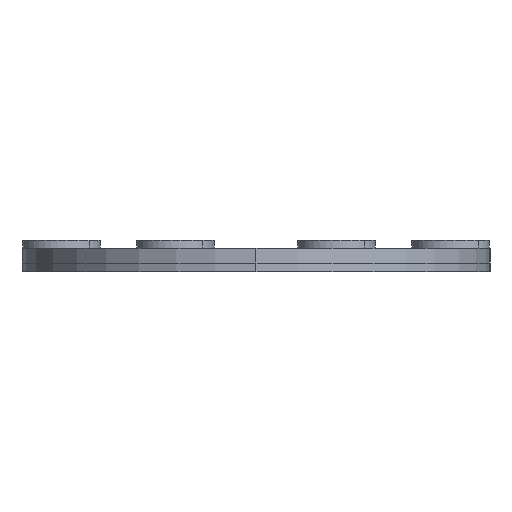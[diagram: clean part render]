
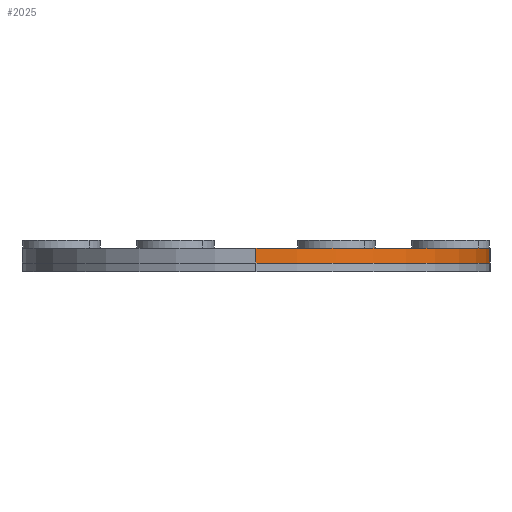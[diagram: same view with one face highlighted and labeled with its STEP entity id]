
A CAD part, left-side view. The second image highlights one B-rep face of the part: STEP entity #2025.
In plain terms, the highlighted cylindrical face has radius 15 mm (diameter 30 mm), a partial arc.
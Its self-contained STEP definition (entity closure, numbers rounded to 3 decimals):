
#233 = PLANE('',#234);
#234 = AXIS2_PLACEMENT_3D('',#235,#236,#237);
#235 = CARTESIAN_POINT('',(-164.75,15.,0.95));
#236 = DIRECTION('',(0.,0.,1.));
#237 = DIRECTION('',(1.,0.,-0.));
#1532 = PLANE('',#1533);
#1533 = AXIS2_PLACEMENT_3D('',#1534,#1535,#1536);
#1534 = CARTESIAN_POINT('',(-164.75,15.,0.));
#1535 = DIRECTION('',(0.,0.,1.));
#1536 = DIRECTION('',(1.,0.,-0.));
#2025 = ADVANCED_FACE('',(#2026),#2041,.T.);
#2026 = FACE_BOUND('',#2027,.T.);
#2027 = EDGE_LOOP('',(#2028,#2059,#2087,#2111));
#2028 = ORIENTED_EDGE('',*,*,#2029,.F.);
#2029 = EDGE_CURVE('',#2030,#2032,#2034,.T.);
#2030 = VERTEX_POINT('',#2031);
#2031 = CARTESIAN_POINT('',(-179.75,15.,0.95));
#2032 = VERTEX_POINT('',#2033);
#2033 = CARTESIAN_POINT('',(-164.75,0.,0.95));
#2034 = SURFACE_CURVE('',#2035,(#2040,#2052),.PCURVE_S1.);
#2035 = CIRCLE('',#2036,15.);
#2036 = AXIS2_PLACEMENT_3D('',#2037,#2038,#2039);
#2037 = CARTESIAN_POINT('',(-164.75,15.,0.95));
#2038 = DIRECTION('',(0.,0.,1.));
#2039 = DIRECTION('',(1.,0.,-0.));
#2040 = PCURVE('',#2041,#2046);
#2041 = CYLINDRICAL_SURFACE('',#2042,15.);
#2042 = AXIS2_PLACEMENT_3D('',#2043,#2044,#2045);
#2043 = CARTESIAN_POINT('',(-164.75,15.,0.95));
#2044 = DIRECTION('',(-0.,-0.,-1.));
#2045 = DIRECTION('',(-1.,0.,0.));
#2046 = DEFINITIONAL_REPRESENTATION('',(#2047),#2051);
#2047 = LINE('',#2048,#2049);
#2048 = CARTESIAN_POINT('',(9.425,0.));
#2049 = VECTOR('',#2050,1.);
#2050 = DIRECTION('',(-1.,0.));
#2051 = ( GEOMETRIC_REPRESENTATION_CONTEXT(2) 
PARAMETRIC_REPRESENTATION_CONTEXT() REPRESENTATION_CONTEXT('2D SPACE',''
  ) );
#2052 = PCURVE('',#233,#2053);
#2053 = DEFINITIONAL_REPRESENTATION('',(#2054),#2058);
#2054 = CIRCLE('',#2055,15.);
#2055 = AXIS2_PLACEMENT_2D('',#2056,#2057);
#2056 = CARTESIAN_POINT('',(0.,0.));
#2057 = DIRECTION('',(1.,0.));
#2058 = ( GEOMETRIC_REPRESENTATION_CONTEXT(2) 
PARAMETRIC_REPRESENTATION_CONTEXT() REPRESENTATION_CONTEXT('2D SPACE',''
  ) );
#2059 = ORIENTED_EDGE('',*,*,#2060,.T.);
#2060 = EDGE_CURVE('',#2030,#2061,#2063,.T.);
#2061 = VERTEX_POINT('',#2062);
#2062 = CARTESIAN_POINT('',(-179.75,15.,0.));
#2063 = SURFACE_CURVE('',#2064,(#2068,#2075),.PCURVE_S1.);
#2064 = LINE('',#2065,#2066);
#2065 = CARTESIAN_POINT('',(-179.75,15.,0.95));
#2066 = VECTOR('',#2067,1.);
#2067 = DIRECTION('',(-0.,-0.,-1.));
#2068 = PCURVE('',#2041,#2069);
#2069 = DEFINITIONAL_REPRESENTATION('',(#2070),#2074);
#2070 = LINE('',#2071,#2072);
#2071 = CARTESIAN_POINT('',(6.283,0.));
#2072 = VECTOR('',#2073,1.);
#2073 = DIRECTION('',(0.,1.));
#2074 = ( GEOMETRIC_REPRESENTATION_CONTEXT(2) 
PARAMETRIC_REPRESENTATION_CONTEXT() REPRESENTATION_CONTEXT('2D SPACE',''
  ) );
#2075 = PCURVE('',#2076,#2081);
#2076 = CYLINDRICAL_SURFACE('',#2077,15.);
#2077 = AXIS2_PLACEMENT_3D('',#2078,#2079,#2080);
#2078 = CARTESIAN_POINT('',(-164.75,15.,0.95));
#2079 = DIRECTION('',(-0.,-0.,-1.));
#2080 = DIRECTION('',(-1.,0.,0.));
#2081 = DEFINITIONAL_REPRESENTATION('',(#2082),#2086);
#2082 = LINE('',#2083,#2084);
#2083 = CARTESIAN_POINT('',(0.,0.));
#2084 = VECTOR('',#2085,1.);
#2085 = DIRECTION('',(0.,1.));
#2086 = ( GEOMETRIC_REPRESENTATION_CONTEXT(2) 
PARAMETRIC_REPRESENTATION_CONTEXT() REPRESENTATION_CONTEXT('2D SPACE',''
  ) );
#2087 = ORIENTED_EDGE('',*,*,#2088,.T.);
#2088 = EDGE_CURVE('',#2061,#2089,#2091,.T.);
#2089 = VERTEX_POINT('',#2090);
#2090 = CARTESIAN_POINT('',(-164.75,0.,0.));
#2091 = SURFACE_CURVE('',#2092,(#2097,#2104),.PCURVE_S1.);
#2092 = CIRCLE('',#2093,15.);
#2093 = AXIS2_PLACEMENT_3D('',#2094,#2095,#2096);
#2094 = CARTESIAN_POINT('',(-164.75,15.,0.));
#2095 = DIRECTION('',(0.,0.,1.));
#2096 = DIRECTION('',(1.,0.,-0.));
#2097 = PCURVE('',#2041,#2098);
#2098 = DEFINITIONAL_REPRESENTATION('',(#2099),#2103);
#2099 = LINE('',#2100,#2101);
#2100 = CARTESIAN_POINT('',(9.425,0.95));
#2101 = VECTOR('',#2102,1.);
#2102 = DIRECTION('',(-1.,0.));
#2103 = ( GEOMETRIC_REPRESENTATION_CONTEXT(2) 
PARAMETRIC_REPRESENTATION_CONTEXT() REPRESENTATION_CONTEXT('2D SPACE',''
  ) );
#2104 = PCURVE('',#1532,#2105);
#2105 = DEFINITIONAL_REPRESENTATION('',(#2106),#2110);
#2106 = CIRCLE('',#2107,15.);
#2107 = AXIS2_PLACEMENT_2D('',#2108,#2109);
#2108 = CARTESIAN_POINT('',(0.,0.));
#2109 = DIRECTION('',(1.,0.));
#2110 = ( GEOMETRIC_REPRESENTATION_CONTEXT(2) 
PARAMETRIC_REPRESENTATION_CONTEXT() REPRESENTATION_CONTEXT('2D SPACE',''
  ) );
#2111 = ORIENTED_EDGE('',*,*,#2112,.F.);
#2112 = EDGE_CURVE('',#2032,#2089,#2113,.T.);
#2113 = SURFACE_CURVE('',#2114,(#2118,#2125),.PCURVE_S1.);
#2114 = LINE('',#2115,#2116);
#2115 = CARTESIAN_POINT('',(-164.75,0.,0.95));
#2116 = VECTOR('',#2117,1.);
#2117 = DIRECTION('',(-0.,-0.,-1.));
#2118 = PCURVE('',#2041,#2119);
#2119 = DEFINITIONAL_REPRESENTATION('',(#2120),#2124);
#2120 = LINE('',#2121,#2122);
#2121 = CARTESIAN_POINT('',(4.712,0.));
#2122 = VECTOR('',#2123,1.);
#2123 = DIRECTION('',(0.,1.));
#2124 = ( GEOMETRIC_REPRESENTATION_CONTEXT(2) 
PARAMETRIC_REPRESENTATION_CONTEXT() REPRESENTATION_CONTEXT('2D SPACE',''
  ) );
#2125 = PCURVE('',#2126,#2131);
#2126 = PLANE('',#2127);
#2127 = AXIS2_PLACEMENT_3D('',#2128,#2129,#2130);
#2128 = CARTESIAN_POINT('',(0.,0.,0.95));
#2129 = DIRECTION('',(0.,1.,-0.));
#2130 = DIRECTION('',(0.,0.,1.));
#2131 = DEFINITIONAL_REPRESENTATION('',(#2132),#2136);
#2132 = LINE('',#2133,#2134);
#2133 = CARTESIAN_POINT('',(0.,-164.75));
#2134 = VECTOR('',#2135,1.);
#2135 = DIRECTION('',(-1.,0.));
#2136 = ( GEOMETRIC_REPRESENTATION_CONTEXT(2) 
PARAMETRIC_REPRESENTATION_CONTEXT() REPRESENTATION_CONTEXT('2D SPACE',''
  ) );
